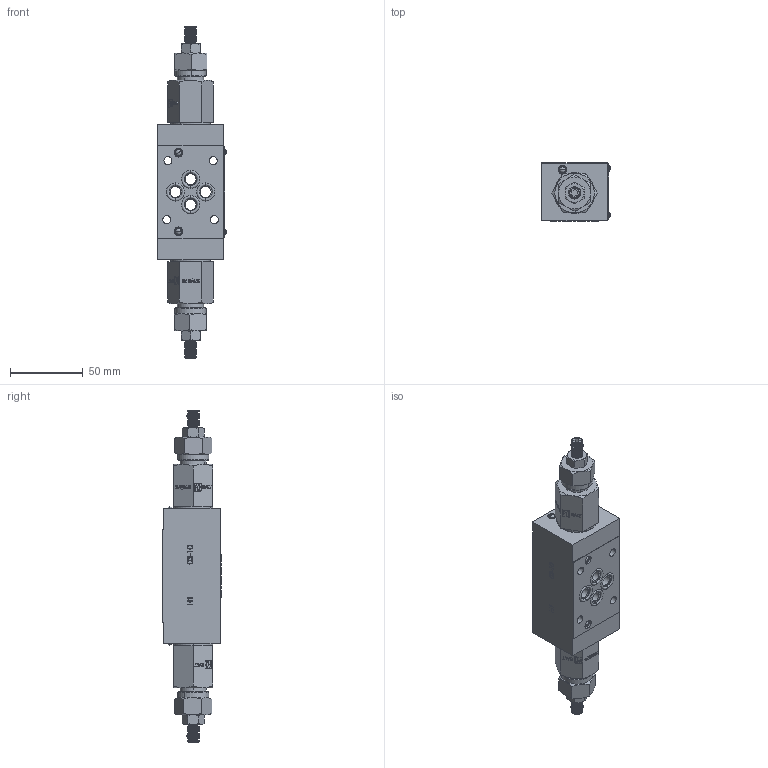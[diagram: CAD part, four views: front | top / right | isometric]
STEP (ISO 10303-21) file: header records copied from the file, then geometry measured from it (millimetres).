
FILE_DESCRIPTION (( 'STEP AP214' ), '1' );
FILE_NAME ('FT379-3-AB-03.STEP', '2014-06-18T12:18:55', ( '' ), ( '' ), 'SwSTEP 2.0', 'SolidWorks 2014', '' );
FILE_SCHEMA (( 'AUTOMOTIVE_DESIGN' ));
Length unit declared in the file: millimetre
Products named in the file (21): DADO M8 UNI 5588; MOLLA-10; 279_3047000-78; 279_3034020-78; 279_3034010-78; 279_3019000-78; 279_3011000-34; 279_3012000-34; 279_3101000-78; 379-3-AB015000; 379-3-AB001000; TAPPO KOENING D=6 mm; OR2037; FT379-3-AB-03; RivettoTarga; 279_3-78; Anello sicurezza; OR2050; AnelloFT267_2-38; OR3075; gRANO M8x25 UNI 5923
Assembly tree (31 placements, depth 3):
  FT379-3-AB-03
    379-3-AB001000
    379-3-AB015000
    279_3-78  x2
      279_3101000-78
      279_3012000-34
      279_3011000-34
      279_3019000-78
      279_3034010-78
      279_3034020-78
      279_3047000-78
      MOLLA-10
      DADO M8 UNI 5588
      gRANO M8x25 UNI 5923
      OR3075
      AnelloFT267_2-38
      OR2050
      Anello sicurezza
    RivettoTarga  x4
    OR2037  x4
    TAPPO KOENING D=6 mm  x4
Bounding box: 46.96 x 40.38 x 227.81 mm (x, y, z)
Volume: 194868.1 mm3; surface area: 80234.9 mm2
Topology: 44 solids, 44 shells, 3323 faces, 7982 edges, 5012 vertices
Faces by surface type: plane 1522, cone 736, cylinder 498, bspline 487, torus 72, sphere 8
Entity records: 113672 total; most frequent: CARTESIAN_POINT 42769, ORIENTED_EDGE 12032, DIRECTION 10047, EDGE_CURVE 6016, VECTOR 4051, LINE 4051, VERTEX_POINT 3846, AXIS2_PLACEMENT_3D 2998
